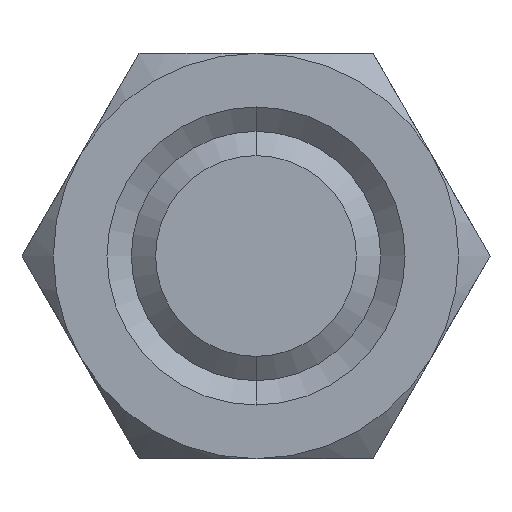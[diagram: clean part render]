
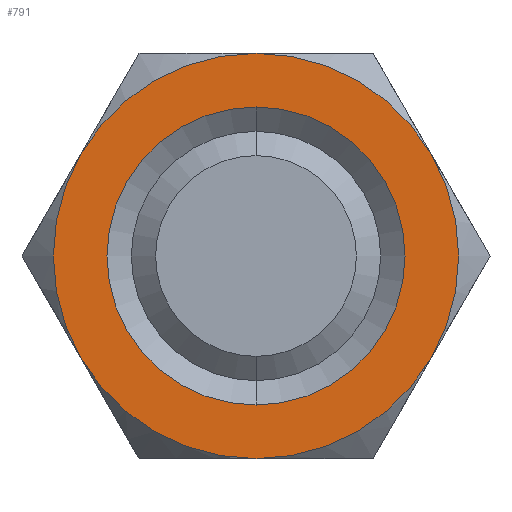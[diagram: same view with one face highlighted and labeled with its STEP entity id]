
A CAD part, front view. The second image highlights one B-rep face of the part: STEP entity #791.
In plain terms, the highlighted planar face has unit normal (0, -1, 0).
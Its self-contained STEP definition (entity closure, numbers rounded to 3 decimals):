
#528 = VERTEX_POINT ( 'NONE', #1195 ) ;
#737 = EDGE_CURVE ( 'NONE', #528, #799, #1591, .T. ) ;
#791 = ADVANCED_FACE ( 'NONE', ( #1604, #1603 ), #1602, .F. ) ;
#792 = ORIENTED_EDGE ( 'NONE', *, *, #793, .F. ) ;
#793 = EDGE_CURVE ( 'NONE', #794, #795, #1599, .T. ) ;
#794 = VERTEX_POINT ( 'NONE', #1654 ) ;
#795 = VERTEX_POINT ( 'NONE', #1653 ) ;
#796 = EDGE_LOOP ( 'NONE', ( #792, #798, #3350, #3349, #3334, #3332 ) ) ;
#798 = ORIENTED_EDGE ( 'NONE', *, *, #3352, .F. ) ;
#799 = VERTEX_POINT ( 'NONE', #1652 ) ;
#1195 = CARTESIAN_POINT ( 'NONE',  ( 0., 0., 4.781 ) ) ;
#1587 = DIRECTION ( 'NONE',  ( 0., 0., -1. ) ) ;
#1588 = DIRECTION ( 'NONE',  ( 0., -1., 0. ) ) ;
#1589 = CARTESIAN_POINT ( 'NONE',  ( 0., 0., 0. ) ) ;
#1590 = AXIS2_PLACEMENT_3D ( 'NONE', #1589, #1588, #1587 ) ;
#1591 = CIRCLE ( 'NONE', #1590, 4.781 ) ;
#1596 = AXIS2_PLACEMENT_3D ( 'NONE', #1657, #1656, #1655 ) ;
#1597 = DIRECTION ( 'NONE',  ( 0., 0., 1. ) ) ;
#1598 = DIRECTION ( 'NONE',  ( 0., 1., 0. ) ) ;
#1599 = CIRCLE ( 'NONE', #1596, 6.5 ) ;
#1600 = CARTESIAN_POINT ( 'NONE',  ( 7.506, 0., 0. ) ) ;
#1601 = AXIS2_PLACEMENT_3D ( 'NONE', #1600, #1598, #1597 ) ;
#1602 = PLANE ( 'NONE',  #1601 ) ;
#1603 = FACE_BOUND ( 'NONE', #3333, .T. ) ;
#1604 = FACE_OUTER_BOUND ( 'NONE', #796, .T. ) ;
#1652 = CARTESIAN_POINT ( 'NONE',  ( 0., 0., -4.781 ) ) ;
#1653 = CARTESIAN_POINT ( 'NONE',  ( 5.629, 0., 3.25 ) ) ;
#1654 = CARTESIAN_POINT ( 'NONE',  ( 0., 0., 6.5 ) ) ;
#1655 = DIRECTION ( 'NONE',  ( 0., 0., 1. ) ) ;
#1656 = DIRECTION ( 'NONE',  ( 0., 1., 0. ) ) ;
#1657 = CARTESIAN_POINT ( 'NONE',  ( 0., 0., 0. ) ) ;
#1816 = DIRECTION ( 'NONE',  ( 0., 0., 1. ) ) ;
#1817 = DIRECTION ( 'NONE',  ( 0., 1., 0. ) ) ;
#1818 = CARTESIAN_POINT ( 'NONE',  ( 0., 0., 0. ) ) ;
#1819 = AXIS2_PLACEMENT_3D ( 'NONE', #1818, #1817, #1816 ) ;
#1820 = CIRCLE ( 'NONE', #1819, 6.5 ) ;
#1822 = DIRECTION ( 'NONE',  ( 0., 0., -1. ) ) ;
#1823 = DIRECTION ( 'NONE',  ( 0., -1., 0. ) ) ;
#1824 = CARTESIAN_POINT ( 'NONE',  ( 0., 0., 0. ) ) ;
#1825 = AXIS2_PLACEMENT_3D ( 'NONE', #1824, #1823, #1822 ) ;
#1826 = CIRCLE ( 'NONE', #1825, 4.781 ) ;
#1846 = CARTESIAN_POINT ( 'NONE',  ( -5.629, 0., 3.25 ) ) ;
#1859 = CARTESIAN_POINT ( 'NONE',  ( -5.629, 0., -3.25 ) ) ;
#1860 = DIRECTION ( 'NONE',  ( 0., 0., 1. ) ) ;
#1861 = DIRECTION ( 'NONE',  ( 0., 1., 0. ) ) ;
#1862 = CARTESIAN_POINT ( 'NONE',  ( 0., 0., 0. ) ) ;
#1863 = AXIS2_PLACEMENT_3D ( 'NONE', #1862, #1861, #1860 ) ;
#1864 = CIRCLE ( 'NONE', #1863, 6.5 ) ;
#1865 = CARTESIAN_POINT ( 'NONE',  ( 0., 0., -6.5 ) ) ;
#1866 = DIRECTION ( 'NONE',  ( 0., 0., 1. ) ) ;
#1867 = DIRECTION ( 'NONE',  ( 0., 1., 0. ) ) ;
#1868 = CARTESIAN_POINT ( 'NONE',  ( 0., 0., 0. ) ) ;
#1869 = AXIS2_PLACEMENT_3D ( 'NONE', #1868, #1867, #1866 ) ;
#1870 = CIRCLE ( 'NONE', #1869, 6.5 ) ;
#1871 = CARTESIAN_POINT ( 'NONE',  ( 5.629, 0., -3.25 ) ) ;
#1872 = DIRECTION ( 'NONE',  ( 0., 0., -1. ) ) ;
#1873 = DIRECTION ( 'NONE',  ( 0., -1., 0. ) ) ;
#1874 = CARTESIAN_POINT ( 'NONE',  ( 0., 0., 0. ) ) ;
#1875 = AXIS2_PLACEMENT_3D ( 'NONE', #1874, #1873, #1872 ) ;
#1876 = CIRCLE ( 'NONE', #1875, 6.5 ) ;
#1896 = DIRECTION ( 'NONE',  ( 0., 0., 1. ) ) ;
#1897 = DIRECTION ( 'NONE',  ( 0., 1., 0. ) ) ;
#1898 = CARTESIAN_POINT ( 'NONE',  ( 0., 0., 0. ) ) ;
#1899 = AXIS2_PLACEMENT_3D ( 'NONE', #1898, #1897, #1896 ) ;
#1900 = CIRCLE ( 'NONE', #1899, 6.5 ) ;
#3330 = EDGE_CURVE ( 'NONE', #799, #528, #1826, .T. ) ;
#3331 = EDGE_CURVE ( 'NONE', #795, #3336, #1820, .T. ) ;
#3332 = ORIENTED_EDGE ( 'NONE', *, *, #3331, .F. ) ;
#3333 = EDGE_LOOP ( 'NONE', ( #3393, #3394 ) ) ;
#3334 = ORIENTED_EDGE ( 'NONE', *, *, #3335, .T. ) ;
#3335 = EDGE_CURVE ( 'NONE', #3338, #3336, #1876, .T. ) ;
#3336 = VERTEX_POINT ( 'NONE', #1871 ) ;
#3337 = EDGE_CURVE ( 'NONE', #3338, #3340, #1870, .T. ) ;
#3338 = VERTEX_POINT ( 'NONE', #1865 ) ;
#3339 = EDGE_CURVE ( 'NONE', #3340, #3351, #1864, .T. ) ;
#3340 = VERTEX_POINT ( 'NONE', #1859 ) ;
#3349 = ORIENTED_EDGE ( 'NONE', *, *, #3337, .F. ) ;
#3350 = ORIENTED_EDGE ( 'NONE', *, *, #3339, .F. ) ;
#3351 = VERTEX_POINT ( 'NONE', #1846 ) ;
#3352 = EDGE_CURVE ( 'NONE', #3351, #794, #1900, .T. ) ;
#3393 = ORIENTED_EDGE ( 'NONE', *, *, #3330, .F. ) ;
#3394 = ORIENTED_EDGE ( 'NONE', *, *, #737, .F. ) ;
